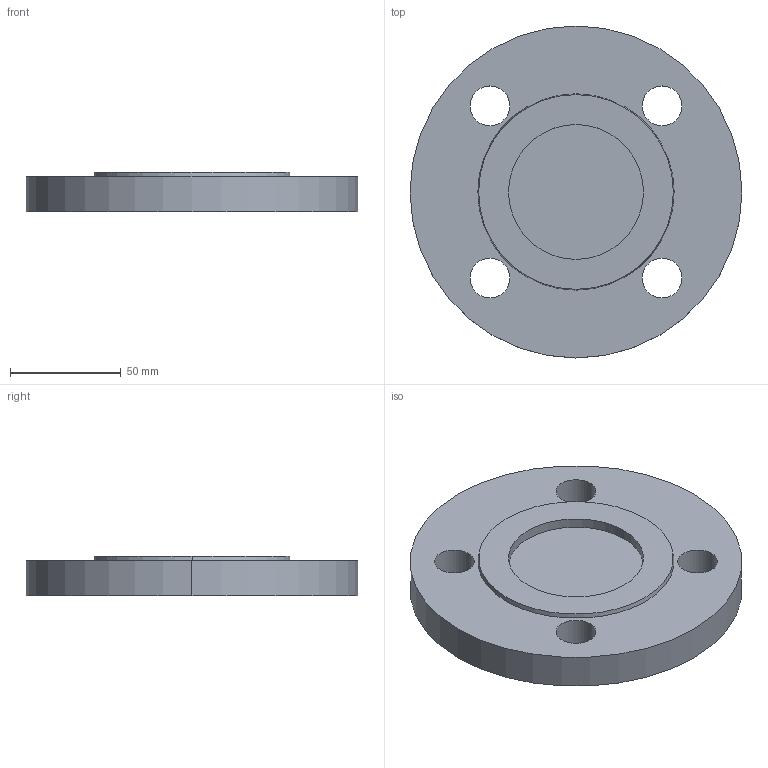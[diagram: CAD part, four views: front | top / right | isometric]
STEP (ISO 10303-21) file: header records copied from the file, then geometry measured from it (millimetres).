
FILE_DESCRIPTION (( 'STEP AP214' ), '1' );
FILE_NAME ('PN40 DN40 Type 05 - Type G Face.STEP', '2018-12-30T02:25:43', ( '' ), ( '' ), 'SwSTEP 2.0', 'SolidWorks 2019', '' );
FILE_SCHEMA (( 'AUTOMOTIVE_DESIGN' ));
Length unit declared in the file: millimetre
Products named in the file (1): PN40 DN40 Type 05 - Type G Face
Bounding box: 150 x 150 x 18 mm (x, y, z)
Volume: 265568.2 mm3; surface area: 45794.3 mm2
Topology: 1 solids, 1 shells, 18 faces, 42 edges, 28 vertices
Faces by surface type: cylinder 12, plane 4, cone 2
Entity records: 584 total; most frequent: DIRECTION 108, CARTESIAN_POINT 89, ORIENTED_EDGE 84, AXIS2_PLACEMENT_3D 47, EDGE_CURVE 42, CIRCLE 28, VERTEX_POINT 28, EDGE_LOOP 28
